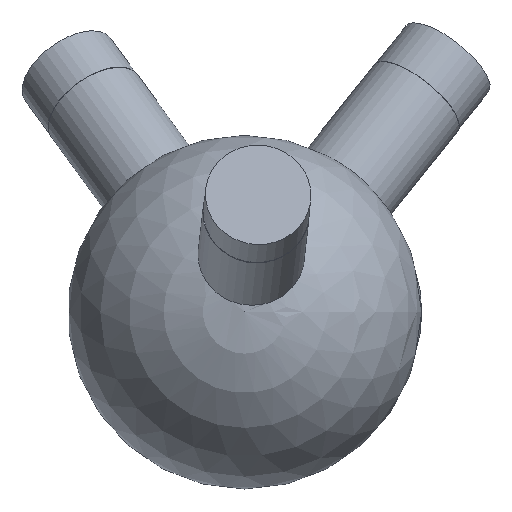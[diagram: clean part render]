
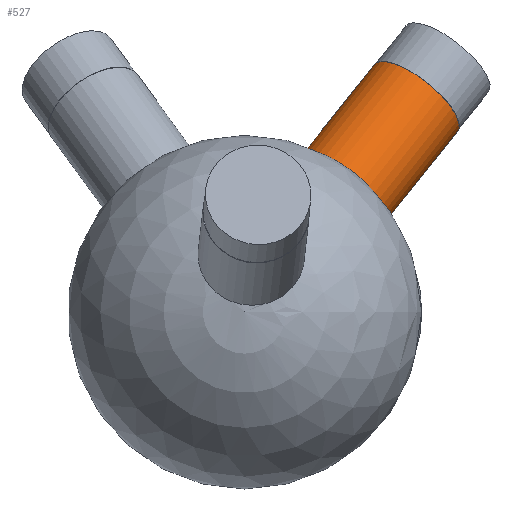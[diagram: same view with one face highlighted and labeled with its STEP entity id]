
A CAD part, top view. The second image highlights one B-rep face of the part: STEP entity #527.
In plain terms, the highlighted cylindrical face has radius 6 mm (diameter 12 mm), a full revolution.
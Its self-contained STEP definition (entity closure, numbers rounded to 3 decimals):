
#33 = SPHERICAL_SURFACE('',#34,20.);
#34 = AXIS2_PLACEMENT_3D('',#35,#36,#37);
#35 = CARTESIAN_POINT('',(0.,0.,0.));
#36 = DIRECTION('',(0.,0.,1.));
#37 = DIRECTION('',(1.,0.,-0.));
#132 = EDGE_CURVE('',#133,#133,#135,.T.);
#133 = VERTEX_POINT('',#134);
#134 = CARTESIAN_POINT('',(15.841,10.213,
    -6.69));
#135 = SURFACE_CURVE('',#136,(#141,#203),.PCURVE_S1.);
#136 = CIRCLE('',#137,6.);
#137 = AXIS2_PLACEMENT_3D('',#138,#139,#140);
#138 = CARTESIAN_POINT('',(11.154,13.959,
    -6.69));
#139 = DIRECTION('',(0.585,0.732,-0.351));
#140 = DIRECTION('',(-0.781,0.624,0.)
  );
#141 = PCURVE('',#33,#142);
#142 = DEFINITIONAL_REPRESENTATION('',(#143),#202);
#143 = B_SPLINE_CURVE_WITH_KNOTS('',8,(#144,#145,#146,#147,#148,#149,
    #150,#151,#152,#153,#154,#155,#156,#157,#158,#159,#160,#161,#162,
    #163,#164,#165,#166,#167,#168,#169,#170,#171,#172,#173,#174,#175,
    #176,#177,#178,#179,#180,#181,#182,#183,#184,#185,#186,#187,#188,
    #189,#190,#191,#192,#193,#194,#195,#196,#197,#198,#199,#200,#201),
  .UNSPECIFIED.,.F.,.F.,(9,7,7,7,7,7,7,7,9),(3.142,
    3.927,4.614,5.216,5.742,
    6.662,7.353,8.389,9.425),
  .UNSPECIFIED.);
#144 = CARTESIAN_POINT('',(0.573,-0.341));
#145 = CARTESIAN_POINT('',(0.569,-0.37));
#146 = CARTESIAN_POINT('',(0.569,-0.4));
#147 = CARTESIAN_POINT('',(0.572,-0.43));
#148 = CARTESIAN_POINT('',(0.579,-0.459));
#149 = CARTESIAN_POINT('',(0.589,-0.487));
#150 = CARTESIAN_POINT('',(0.603,-0.514));
#151 = CARTESIAN_POINT('',(0.622,-0.539));
#152 = CARTESIAN_POINT('',(0.662,-0.582));
#153 = CARTESIAN_POINT('',(0.684,-0.601));
#154 = CARTESIAN_POINT('',(0.708,-0.617));
#155 = CARTESIAN_POINT('',(0.735,-0.632));
#156 = CARTESIAN_POINT('',(0.764,-0.643));
#157 = CARTESIAN_POINT('',(0.795,-0.652));
#158 = CARTESIAN_POINT('',(0.827,-0.658));
#159 = CARTESIAN_POINT('',(0.888,-0.664));
#160 = CARTESIAN_POINT('',(0.917,-0.664));
#161 = CARTESIAN_POINT('',(0.945,-0.662));
#162 = CARTESIAN_POINT('',(0.974,-0.658));
#163 = CARTESIAN_POINT('',(1.001,-0.651));
#164 = CARTESIAN_POINT('',(1.027,-0.643));
#165 = CARTESIAN_POINT('',(1.052,-0.632));
#166 = CARTESIAN_POINT('',(1.095,-0.609));
#167 = CARTESIAN_POINT('',(1.114,-0.596));
#168 = CARTESIAN_POINT('',(1.132,-0.583));
#169 = CARTESIAN_POINT('',(1.147,-0.568));
#170 = CARTESIAN_POINT('',(1.162,-0.552));
#171 = CARTESIAN_POINT('',(1.174,-0.535));
#172 = CARTESIAN_POINT('',(1.185,-0.518));
#173 = CARTESIAN_POINT('',(1.21,-0.468));
#174 = CARTESIAN_POINT('',(1.221,-0.435));
#175 = CARTESIAN_POINT('',(1.226,-0.4));
#176 = CARTESIAN_POINT('',(1.227,-0.365));
#177 = CARTESIAN_POINT('',(1.223,-0.33));
#178 = CARTESIAN_POINT('',(1.215,-0.296));
#179 = CARTESIAN_POINT('',(1.203,-0.263));
#180 = CARTESIAN_POINT('',(1.175,-0.209));
#181 = CARTESIAN_POINT('',(1.161,-0.187));
#182 = CARTESIAN_POINT('',(1.145,-0.166));
#183 = CARTESIAN_POINT('',(1.127,-0.147));
#184 = CARTESIAN_POINT('',(1.108,-0.129));
#185 = CARTESIAN_POINT('',(1.087,-0.114));
#186 = CARTESIAN_POINT('',(1.065,-0.1));
#187 = CARTESIAN_POINT('',(1.007,-0.071));
#188 = CARTESIAN_POINT('',(0.97,-0.058));
#189 = CARTESIAN_POINT('',(0.931,-0.05));
#190 = CARTESIAN_POINT('',(0.891,-0.048));
#191 = CARTESIAN_POINT('',(0.852,-0.052));
#192 = CARTESIAN_POINT('',(0.813,-0.06));
#193 = CARTESIAN_POINT('',(0.777,-0.074));
#194 = CARTESIAN_POINT('',(0.708,-0.112));
#195 = CARTESIAN_POINT('',(0.676,-0.135));
#196 = CARTESIAN_POINT('',(0.648,-0.162));
#197 = CARTESIAN_POINT('',(0.623,-0.194));
#198 = CARTESIAN_POINT('',(0.603,-0.228));
#199 = CARTESIAN_POINT('',(0.588,-0.264));
#200 = CARTESIAN_POINT('',(0.577,-0.302));
#201 = CARTESIAN_POINT('',(0.573,-0.341));
#202 = ( GEOMETRIC_REPRESENTATION_CONTEXT(2) 
PARAMETRIC_REPRESENTATION_CONTEXT() REPRESENTATION_CONTEXT('2D SPACE',''
  ) );
#203 = PCURVE('',#204,#209);
#204 = CYLINDRICAL_SURFACE('',#205,6.);
#205 = AXIS2_PLACEMENT_3D('',#206,#207,#208);
#206 = CARTESIAN_POINT('',(0.,0.,0.));
#207 = DIRECTION('',(0.585,0.732,-0.351));
#208 = DIRECTION('',(0.781,-0.624,0.)
  );
#209 = DEFINITIONAL_REPRESENTATION('',(#210),#214);
#210 = LINE('',#211,#212);
#211 = CARTESIAN_POINT('',(-3.142,19.079));
#212 = VECTOR('',#213,1.);
#213 = DIRECTION('',(1.,0.));
#214 = ( GEOMETRIC_REPRESENTATION_CONTEXT(2) 
PARAMETRIC_REPRESENTATION_CONTEXT() REPRESENTATION_CONTEXT('2D SPACE',''
  ) );
#527 = ADVANCED_FACE('',(#528),#204,.T.);
#528 = FACE_BOUND('',#529,.T.);
#529 = EDGE_LOOP('',(#530,#553,#580,#581));
#530 = ORIENTED_EDGE('',*,*,#531,.T.);
#531 = EDGE_CURVE('',#133,#532,#534,.T.);
#532 = VERTEX_POINT('',#533);
#533 = CARTESIAN_POINT('',(24.002,20.427,
    -11.585));
#534 = SEAM_CURVE('',#535,(#539,#546),.PCURVE_S1.);
#535 = LINE('',#536,#537);
#536 = CARTESIAN_POINT('',(4.687,-3.745,
    0.));
#537 = VECTOR('',#538,1.);
#538 = DIRECTION('',(0.585,0.732,-0.351));
#539 = PCURVE('',#204,#540);
#540 = DEFINITIONAL_REPRESENTATION('',(#541),#545);
#541 = LINE('',#542,#543);
#542 = CARTESIAN_POINT('',(6.283,-0.));
#543 = VECTOR('',#544,1.);
#544 = DIRECTION('',(0.,1.));
#545 = ( GEOMETRIC_REPRESENTATION_CONTEXT(2) 
PARAMETRIC_REPRESENTATION_CONTEXT() REPRESENTATION_CONTEXT('2D SPACE',''
  ) );
#546 = PCURVE('',#204,#547);
#547 = DEFINITIONAL_REPRESENTATION('',(#548),#552);
#548 = LINE('',#549,#550);
#549 = CARTESIAN_POINT('',(0.,-0.));
#550 = VECTOR('',#551,1.);
#551 = DIRECTION('',(0.,1.));
#552 = ( GEOMETRIC_REPRESENTATION_CONTEXT(2) 
PARAMETRIC_REPRESENTATION_CONTEXT() REPRESENTATION_CONTEXT('2D SPACE',''
  ) );
#553 = ORIENTED_EDGE('',*,*,#554,.F.);
#554 = EDGE_CURVE('',#532,#532,#555,.T.);
#555 = SURFACE_CURVE('',#556,(#561,#568),.PCURVE_S1.);
#556 = CIRCLE('',#557,6.);
#557 = AXIS2_PLACEMENT_3D('',#558,#559,#560);
#558 = CARTESIAN_POINT('',(19.315,24.172,
    -11.585));
#559 = DIRECTION('',(0.585,0.732,-0.351));
#560 = DIRECTION('',(0.781,-0.624,0.)
  );
#561 = PCURVE('',#204,#562);
#562 = DEFINITIONAL_REPRESENTATION('',(#563),#567);
#563 = LINE('',#564,#565);
#564 = CARTESIAN_POINT('',(0.,33.039));
#565 = VECTOR('',#566,1.);
#566 = DIRECTION('',(1.,0.));
#567 = ( GEOMETRIC_REPRESENTATION_CONTEXT(2) 
PARAMETRIC_REPRESENTATION_CONTEXT() REPRESENTATION_CONTEXT('2D SPACE',''
  ) );
#568 = PCURVE('',#569,#574);
#569 = PLANE('',#570);
#570 = AXIS2_PLACEMENT_3D('',#571,#572,#573);
#571 = CARTESIAN_POINT('',(19.315,24.172,
    -11.585));
#572 = DIRECTION('',(0.585,0.732,-0.351));
#573 = DIRECTION('',(0.781,-0.624,0.)
  );
#574 = DEFINITIONAL_REPRESENTATION('',(#575),#579);
#575 = CIRCLE('',#576,6.);
#576 = AXIS2_PLACEMENT_2D('',#577,#578);
#577 = CARTESIAN_POINT('',(0.,0.));
#578 = DIRECTION('',(1.,0.));
#579 = ( GEOMETRIC_REPRESENTATION_CONTEXT(2) 
PARAMETRIC_REPRESENTATION_CONTEXT() REPRESENTATION_CONTEXT('2D SPACE',''
  ) );
#580 = ORIENTED_EDGE('',*,*,#531,.F.);
#581 = ORIENTED_EDGE('',*,*,#132,.T.);
